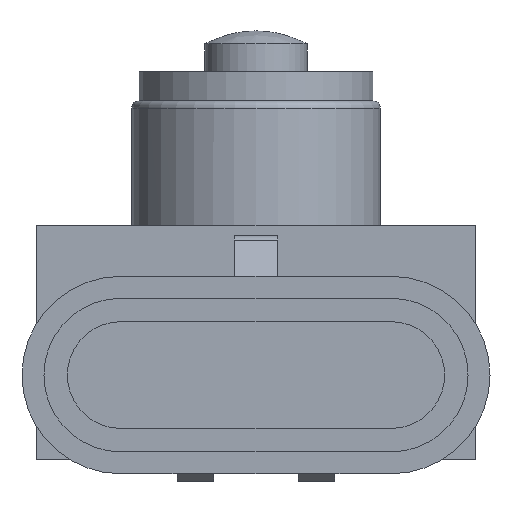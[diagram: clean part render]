
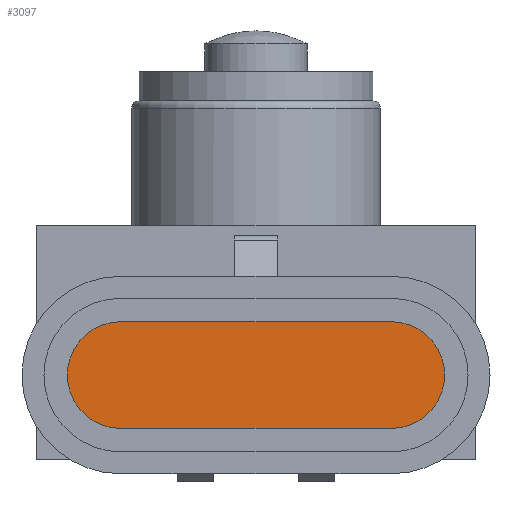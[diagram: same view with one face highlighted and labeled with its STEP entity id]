
A CAD part, front view. The second image highlights one B-rep face of the part: STEP entity #3097.
In plain terms, the highlighted planar face has unit normal (0, -1, 0) as drawn and (0, 0, -1) by its records, which use the part's own axes.
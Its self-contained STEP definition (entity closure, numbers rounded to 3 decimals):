
#147=LINE('',#4786,#443);
#151=LINE('',#4798,#447);
#443=VECTOR('',#3862,18.5);
#447=VECTOR('',#3874,18.5);
#666=PLANE('',#3335);
#836=FACE_OUTER_BOUND('',#1026,.T.);
#1026=EDGE_LOOP('',(#2307,#2308,#2309,#2310));
#1214=CIRCLE('',#3330,3.65);
#1216=CIRCLE('',#3334,3.65);
#1402=VERTEX_POINT('',#4783);
#1403=VERTEX_POINT('',#4785);
#1405=VERTEX_POINT('',#4791);
#1407=VERTEX_POINT('',#4797);
#1738=EDGE_CURVE('',#1403,#1402,#147,.T.);
#1741=EDGE_CURVE('',#1405,#1403,#1214,.T.);
#1744=EDGE_CURVE('',#1407,#1405,#151,.T.);
#1747=EDGE_CURVE('',#1402,#1407,#1216,.T.);
#2307=ORIENTED_EDGE('',*,*,#1741,.T.);
#2308=ORIENTED_EDGE('',*,*,#1738,.T.);
#2309=ORIENTED_EDGE('',*,*,#1747,.T.);
#2310=ORIENTED_EDGE('',*,*,#1744,.T.);
#3097=ADVANCED_FACE('',(#836),#666,.F.);
#3330=AXIS2_PLACEMENT_3D('',#4792,#3868,#3869);
#3334=AXIS2_PLACEMENT_3D('',#4802,#3880,#3881);
#3335=AXIS2_PLACEMENT_3D('',#4803,#3882,#3883);
#3862=DIRECTION('',(1.,0.,0.));
#3868=DIRECTION('center_axis',(0.,0.,-1.));
#3869=DIRECTION('ref_axis',(1.,0.,0.));
#3874=DIRECTION('',(-1.,0.,0.));
#3880=DIRECTION('center_axis',(0.,0.,-1.));
#3881=DIRECTION('ref_axis',(1.,0.,0.));
#3882=DIRECTION('center_axis',(0.,0.,1.));
#3883=DIRECTION('ref_axis',(1.,0.,0.));
#4783=CARTESIAN_POINT('',(9.25,-2.1,-60.5));
#4785=CARTESIAN_POINT('',(-9.25,-2.1,-60.5));
#4786=CARTESIAN_POINT('',(-9.25,-2.1,-60.5));
#4791=CARTESIAN_POINT('',(-9.25,-9.4,-60.5));
#4792=CARTESIAN_POINT('Origin',(-9.25,-5.75,-60.5));
#4797=CARTESIAN_POINT('',(9.25,-9.4,-60.5));
#4798=CARTESIAN_POINT('',(9.25,-9.4,-60.5));
#4802=CARTESIAN_POINT('Origin',(9.25,-5.75,-60.5));
#4803=CARTESIAN_POINT('Origin',(-9.25,-5.75,-60.5));
